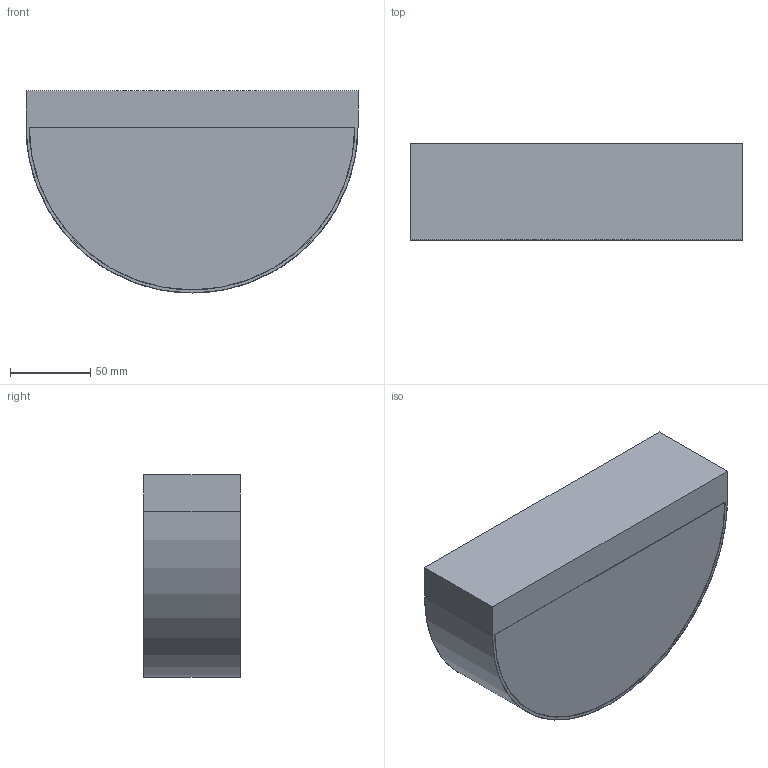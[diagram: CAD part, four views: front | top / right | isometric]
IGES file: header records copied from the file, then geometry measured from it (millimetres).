
Start section: SolidWorks IGES file using analytic representation for surfaces
Global section: file name: C:\Users\danielet\Desktop\3D CARLOS\AYSEL-A2069-3D\AYSEL-A2069-3D.IGS; native system: SolidWorks 2018; preprocessor: SolidWorks 2018; author: danielet; date: 220204.115354; units: millimetre
Bounding box: 207 x 60 x 126 mm (x, y, z)
Surface area: 77806.6 mm2 (no closed solid volume)
Topology: 0 solids, 0 shells, 14 faces, 242 edges, 242 vertices
Faces by surface type: bspline 9, revolution 5
